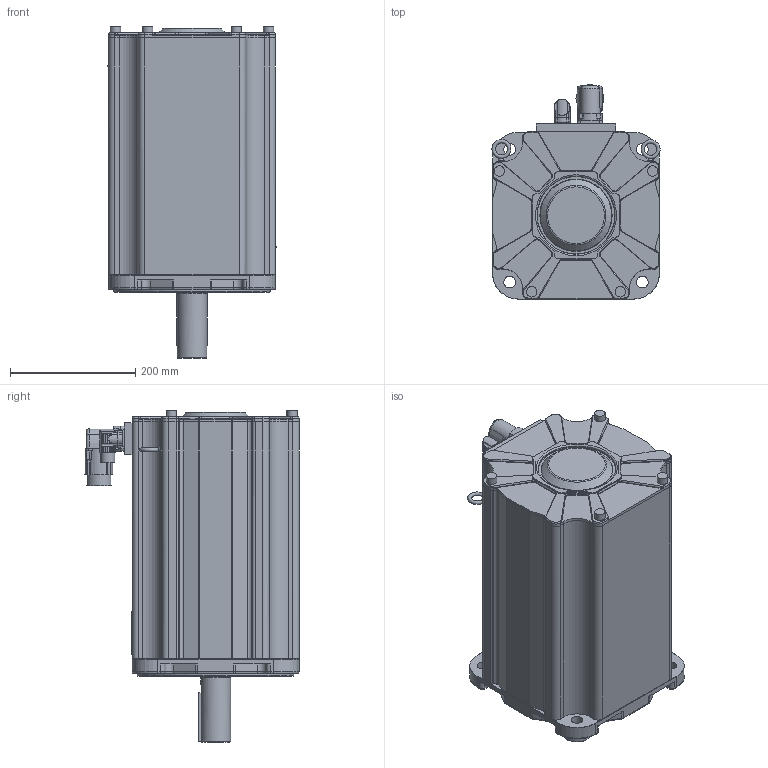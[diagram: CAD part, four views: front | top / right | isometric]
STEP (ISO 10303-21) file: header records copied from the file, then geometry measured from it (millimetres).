
FILE_DESCRIPTION((''),'2;1');
FILE_NAME('C:\CAD_work\Dummy_Modeling_Project_02-12-05\3D MODELS\MPP2706XXX_NPSB.stp','2006-02-03T10:45:11',('jevans'),(''),'Autodesk Inventor 10','Autodesk Inventor 10','');
FILE_SCHEMA(('AUTOMOTIVE_DESIGN { 1 0 10303 214 1 1 1 1 }'));
Length unit declared in the file: inch
Products named in the file (1): MPP270_MOTOR
Bounding box: 268.68 x 341.91 x 530.4 mm (x, y, z)
Volume: 25537147.3 mm3; surface area: 699464 mm2
Topology: 1 solids, 8 shells, 961 faces, 2362 edges, 1475 vertices
Faces by surface type: cylinder 404, plane 347, bspline 129, torus 65, cone 16
Full cylindrical faces by diameter (mm): 1.016 x17, 2 x2, 3.6 x4, 16.662 x4, 19.05 x1, 19.685 x1, 22.86 x1, 32.639 x1, 39.624 x1, 47.663 x1, 48.019 x1, 51.892 x1, 69.85 x1, 72.023 x1, 88.9 x1, 106.68 x1, 119.99 x1, 120 x1, 120.018 x1, 120.272 x2, 124.46 x1, 133.349 x1, 133.35 x1, 250.001 x1
Entity records: 32172 total; most frequent: CARTESIAN_POINT 10100, DIRECTION 4687, ORIENTED_EDGE 4484, EDGE_CURVE 2242, AXIS2_PLACEMENT_3D 1825, VERTEX_POINT 1440, EDGE_LOOP 1116, VECTOR 1037
